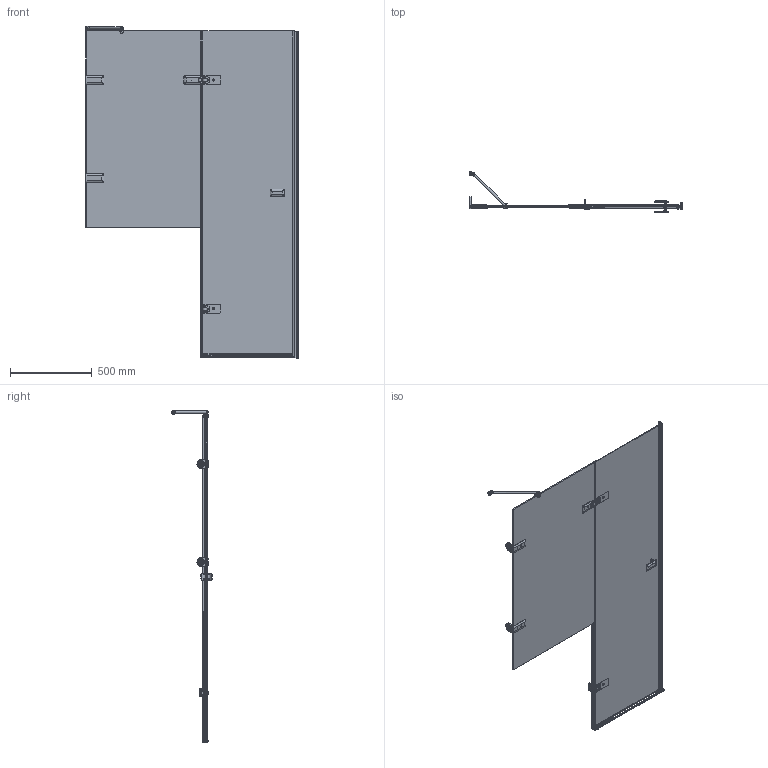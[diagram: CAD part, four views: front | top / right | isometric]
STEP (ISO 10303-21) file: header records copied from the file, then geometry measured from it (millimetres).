
FILE_DESCRIPTION(/* description */ ('Дверь'),/* implementation_level */ '2;1');
FILE_NAME(/* name */ 'D:\Работа\Сергей\Душевые кабинки\! Работа\! 32\TREND DOOR GK-862ALTWO\TREND DOOR GK-862ALTWO левая модель\TREND DOOR GK-862ALTWO ЛЕВАЯ (3D для рендера).stp',/* time_stamp */ '2019-05-10T16:13:02+03:00',/* author */ ('User'),/* organization */ (''),/* preprocessor_version */ 'ST-DEVELOPER v15.2',/* originating_system */ 'Autodesk Inventor 2014',/* authorisation */ '');
FILE_SCHEMA (('CONFIG_CONTROL_DESIGN'));
Length unit declared in the file: millimetre
Products named in the file (68): Стекло.03 (0) TR; Стекло.02 (2-5) TR; CH26-1 P1; CH26-1 P7; CH25-1 P2; CH25-1 P3; CH26-1 P8; CH27-1_2; CH26-1 P2; CH26-1 P3; CH26-1 P4; CH26-1 P5; CH26-1 P6; CH26-0 P13; CH26-0 P14; CH26-0 P15; CH26-0 P11; CH26-0 P12; CH27-0 P1; CH27-0 P3; CH27-0-P2; CH27-1_1; M180-6; Магнит_180; М180-6; M360-6_2; Магнит_360_2; М360-6_2; UP600M6.01; 07-003; CH20-004; CH21-001; CH21-002; CH21-003; ISO 4026 - M5 x 5ISO; 113; PR-10-SLK; UP603М8.03; PL-10-SLK10-L; PR-12-001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
Bounding box: 1300 x 249.9 x 2031.5 mm (x, y, z)
Volume: 14498332.1 mm3; surface area: 5647282.5 mm2
Topology: 133 solids, 133 shells, 2207 faces, 5351 edges, 3452 vertices
Faces by surface type: plane 1186, cylinder 690, cone 174, bspline 76, torus 69, sphere 12
Full cylindrical faces by diameter (mm): 1.5 x10, 2.459 x2, 3 x3, 3.242 x6, 4 x23, 4.1 x1, 4.134 x5, 4.917 x8, 5 x10, 5.2 x2, 5.4 x2, 5.54 x2, 6 x21, 6.5 x10, 6.647 x1, 7.2 x4, 8 x9, 8.2 x4, 8.5 x1, 9 x7, 10 x7, 11 x9, 11.34 x10, 12 x19, 12.5 x1, 13 x23, 15 x1, 16 x7, 16.5 x2, 17.85 x2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
Entity records: 45340 total; most frequent: CARTESIAN_POINT 10563, DIRECTION 7192, ORIENTED_EDGE 6578, EDGE_CURVE 3289, AXIS2_PLACEMENT_3D 2588, VERTEX_POINT 2253, LINE 2016, VECTOR 2016
